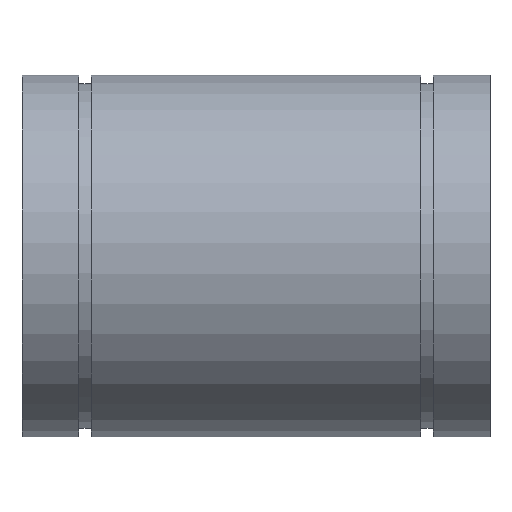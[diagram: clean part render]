
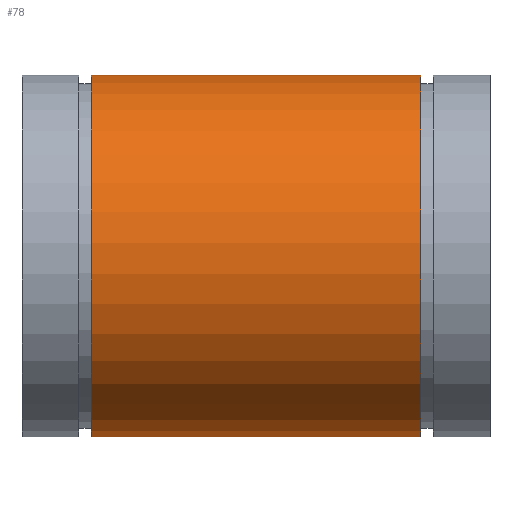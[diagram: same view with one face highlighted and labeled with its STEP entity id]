
A CAD part, front view. The second image highlights one B-rep face of the part: STEP entity #78.
In plain terms, the highlighted cylindrical face has radius 31 mm (diameter 62 mm), a partial arc.
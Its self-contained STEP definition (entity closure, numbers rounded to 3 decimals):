
#78 = ADVANCED_FACE( '', ( #96 ), #97, .T. );
#96 = FACE_OUTER_BOUND( '', #124, .T. );
#97 = CYLINDRICAL_SURFACE( '', #125, 31. );
#124 = EDGE_LOOP( '', ( #167, #168, #169, #170 ) );
#125 = AXIS2_PLACEMENT_3D( '', #171, #172, #173 );
#167 = ORIENTED_EDGE( '', *, *, #271, .T. );
#168 = ORIENTED_EDGE( '', *, *, #272, .T. );
#169 = ORIENTED_EDGE( '', *, *, #273, .F. );
#170 = ORIENTED_EDGE( '', *, *, #274, .T. );
#171 = CARTESIAN_POINT( '', ( 80., 0., 0. ) );
#172 = DIRECTION( '', ( -1., 0., 0. ) );
#173 = DIRECTION( '', ( 0., 0., -1. ) );
#271 = EDGE_CURVE( '', #317, #318, #319, .T. );
#272 = EDGE_CURVE( '', #318, #320, #321, .T. );
#273 = EDGE_CURVE( '', #322, #320, #323, .T. );
#274 = EDGE_CURVE( '', #322, #317, #324, .F. );
#317 = VERTEX_POINT( '', #383 );
#318 = VERTEX_POINT( '', #384 );
#319 = CIRCLE( '', #385, 31. );
#320 = VERTEX_POINT( '', #386 );
#321 = LINE( '', #387, #388 );
#322 = VERTEX_POINT( '', #389 );
#323 = CIRCLE( '', #390, 31. );
#324 = LINE( '', #391, #392 );
#383 = CARTESIAN_POINT( '', ( 11.85, 20.834, 22.955 ) );
#384 = CARTESIAN_POINT( '', ( 11.85, 22.955, 20.834 ) );
#385 = AXIS2_PLACEMENT_3D( '', #461, #462, #463 );
#386 = CARTESIAN_POINT( '', ( 68.15, 22.955, 20.834 ) );
#387 = CARTESIAN_POINT( '', ( 80., 22.955, 20.834 ) );
#388 = VECTOR( '', #464, 1000. );
#389 = CARTESIAN_POINT( '', ( 68.15, 20.834, 22.955 ) );
#390 = AXIS2_PLACEMENT_3D( '', #465, #466, #467 );
#391 = CARTESIAN_POINT( '', ( 80., 20.834, 22.955 ) );
#392 = VECTOR( '', #468, 1000. );
#461 = CARTESIAN_POINT( '', ( 11.85, 0., 0. ) );
#462 = DIRECTION( '', ( 1., 0., 0. ) );
#463 = DIRECTION( '', ( 0., 0., -1. ) );
#464 = DIRECTION( '', ( 1., 0., 0. ) );
#465 = CARTESIAN_POINT( '', ( 68.15, 0., 0. ) );
#466 = DIRECTION( '', ( 1., 0., 0. ) );
#467 = DIRECTION( '', ( 0., 0., -1. ) );
#468 = DIRECTION( '', ( 1., 0., 0. ) );
